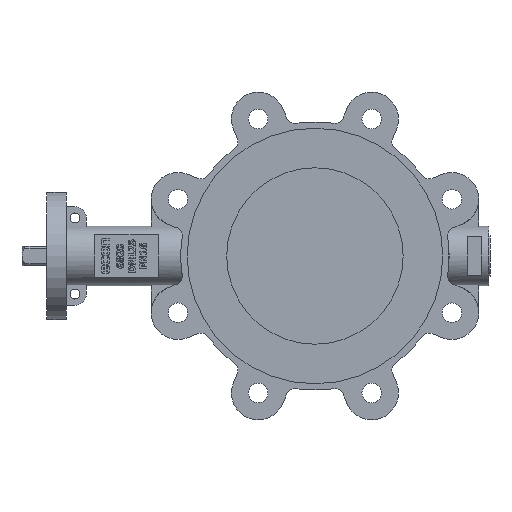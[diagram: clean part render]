
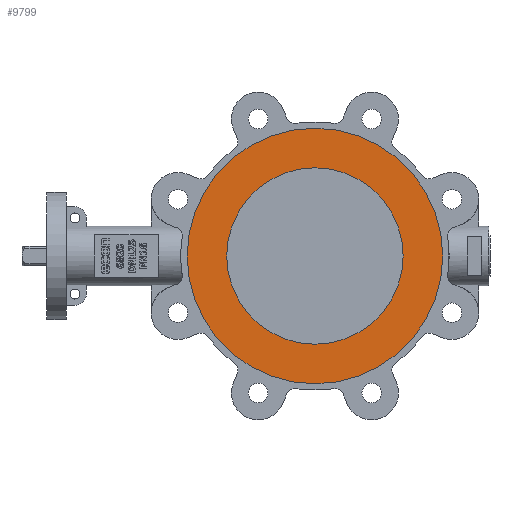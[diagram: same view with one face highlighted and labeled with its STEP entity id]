
A CAD part, left-side view. The second image highlights one B-rep face of the part: STEP entity #9799.
In plain terms, the highlighted planar face has unit normal (-1, 0, 0).
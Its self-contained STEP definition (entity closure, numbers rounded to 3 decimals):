
#224=FACE_BOUND('',#1835,.T.);
#772=PLANE('',#10413);
#1269=FACE_OUTER_BOUND('',#1834,.T.);
#1834=EDGE_LOOP('',(#8704));
#1835=EDGE_LOOP('',(#8705));
#3754=CIRCLE('',#10404,62.5);
#3758=CIRCLE('',#10414,90.5);
#4651=VERTEX_POINT('',#17385);
#4655=VERTEX_POINT('',#17401);
#6000=EDGE_CURVE('',#4651,#4651,#3754,.T.);
#6006=EDGE_CURVE('',#4655,#4655,#3758,.T.);
#8704=ORIENTED_EDGE('',*,*,#6006,.T.);
#8705=ORIENTED_EDGE('',*,*,#6000,.T.);
#9799=ADVANCED_FACE('',(#1269,#224),#772,.F.);
#10404=AXIS2_PLACEMENT_3D('',#17386,#12428,#12429);
#10413=AXIS2_PLACEMENT_3D('',#17400,#12448,#12449);
#10414=AXIS2_PLACEMENT_3D('',#17402,#12450,#12451);
#12428=DIRECTION('center_axis',(1.,0.,0.));
#12429=DIRECTION('ref_axis',(0.,0.,-1.));
#12448=DIRECTION('center_axis',(1.,0.,0.));
#12449=DIRECTION('ref_axis',(0.,0.,-1.));
#12450=DIRECTION('center_axis',(-1.,0.,0.));
#12451=DIRECTION('ref_axis',(0.,-1.,0.));
#17385=CARTESIAN_POINT('',(-24.765,-45.49,62.5));
#17386=CARTESIAN_POINT('Origin',(-24.765,-45.49,0.));
#17400=CARTESIAN_POINT('Origin',(-24.765,-45.49,0.));
#17401=CARTESIAN_POINT('',(-24.765,45.01,0.));
#17402=CARTESIAN_POINT('Origin',(-24.765,-45.49,0.));
